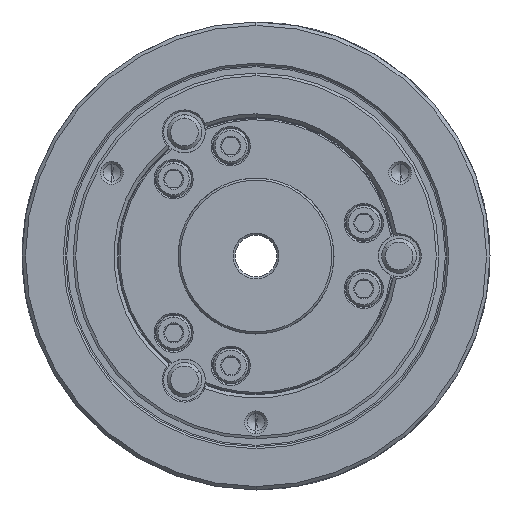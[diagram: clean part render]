
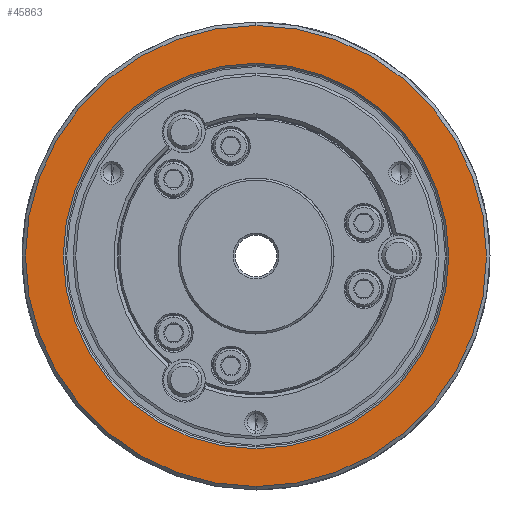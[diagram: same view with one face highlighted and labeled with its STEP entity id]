
A CAD part, left-side view. The second image highlights one B-rep face of the part: STEP entity #45863.
In plain terms, the highlighted planar face has unit normal (-1, 0, 0).
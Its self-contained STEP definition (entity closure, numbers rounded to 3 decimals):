
#83 = CARTESIAN_POINT ( 'NONE',  ( -60., 0., 0. ) ) ;
#3236 = CARTESIAN_POINT ( 'NONE',  ( -60., 0., 66.5 ) ) ;
#5412 = DIRECTION ( 'NONE',  ( 1., 0., 0. ) ) ;
#6325 = DIRECTION ( 'NONE',  ( 0., 0., -1. ) ) ;
#7071 = AXIS2_PLACEMENT_3D ( 'NONE', #75913, #74590, #27844 ) ;
#7256 = ORIENTED_EDGE ( 'NONE', *, *, #60164, .T. ) ;
#8356 = VERTEX_POINT ( 'NONE', #34407 ) ;
#8637 = VERTEX_POINT ( 'NONE', #38670 ) ;
#12971 = EDGE_CURVE ( 'NONE', #63511, #8356, #39357, .T. ) ;
#13255 = DIRECTION ( 'NONE',  ( 0., 0., -1. ) ) ;
#16045 = PLANE ( 'NONE',  #7071 ) ;
#21437 = CIRCLE ( 'NONE', #75846, 55.6 ) ;
#21529 = DIRECTION ( 'NONE',  ( 1., 0., 0. ) ) ;
#23866 = CARTESIAN_POINT ( 'NONE',  ( -60., 0., 55.6 ) ) ;
#26437 = DIRECTION ( 'NONE',  ( 1., 0., 0. ) ) ;
#27192 = DIRECTION ( 'NONE',  ( 1., 0., 0. ) ) ;
#27844 = DIRECTION ( 'NONE',  ( 0., 0., 1. ) ) ;
#32695 = ORIENTED_EDGE ( 'NONE', *, *, #35832, .F. ) ;
#33730 = DIRECTION ( 'NONE',  ( 0., 0., -1. ) ) ;
#34407 = CARTESIAN_POINT ( 'NONE',  ( -60., 0., -66.5 ) ) ;
#35832 = EDGE_CURVE ( 'NONE', #8356, #63511, #41703, .T. ) ;
#38670 = CARTESIAN_POINT ( 'NONE',  ( -60., 0., -55.6 ) ) ;
#39357 = CIRCLE ( 'NONE', #50511, 66.5 ) ;
#39519 = EDGE_LOOP ( 'NONE', ( #32695, #62896 ) ) ;
#40309 = CARTESIAN_POINT ( 'NONE',  ( -60., 0., 0. ) ) ;
#41252 = CARTESIAN_POINT ( 'NONE',  ( -60., 0., 0. ) ) ;
#41347 = FACE_OUTER_BOUND ( 'NONE', #39519, .T. ) ;
#41703 = CIRCLE ( 'NONE', #66860, 66.5 ) ;
#45863 = ADVANCED_FACE ( 'NONE', ( #56250, #41347 ), #16045, .T. ) ;
#47828 = DIRECTION ( 'NONE',  ( 0., 0., -1. ) ) ;
#48715 = CIRCLE ( 'NONE', #85014, 55.6 ) ;
#49293 = ORIENTED_EDGE ( 'NONE', *, *, #75417, .T. ) ;
#50511 = AXIS2_PLACEMENT_3D ( 'NONE', #83, #27192, #33730 ) ;
#56250 = FACE_BOUND ( 'NONE', #73597, .T. ) ;
#59178 = CARTESIAN_POINT ( 'NONE',  ( -60., 0., 0. ) ) ;
#60164 = EDGE_CURVE ( 'NONE', #8637, #62124, #48715, .T. ) ;
#62124 = VERTEX_POINT ( 'NONE', #23866 ) ;
#62896 = ORIENTED_EDGE ( 'NONE', *, *, #12971, .F. ) ;
#63511 = VERTEX_POINT ( 'NONE', #3236 ) ;
#66860 = AXIS2_PLACEMENT_3D ( 'NONE', #59178, #5412, #6325 ) ;
#73597 = EDGE_LOOP ( 'NONE', ( #49293, #7256 ) ) ;
#74590 = DIRECTION ( 'NONE',  ( -1., 0., 0. ) ) ;
#75417 = EDGE_CURVE ( 'NONE', #62124, #8637, #21437, .T. ) ;
#75846 = AXIS2_PLACEMENT_3D ( 'NONE', #41252, #26437, #47828 ) ;
#75913 = CARTESIAN_POINT ( 'NONE',  ( -60., 55.6, 0. ) ) ;
#85014 = AXIS2_PLACEMENT_3D ( 'NONE', #40309, #21529, #13255 ) ;
